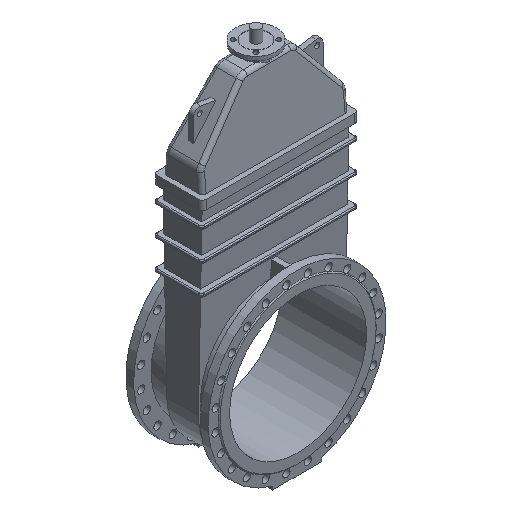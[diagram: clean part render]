
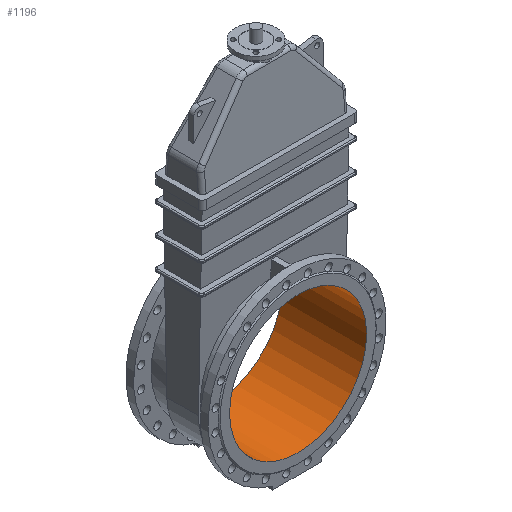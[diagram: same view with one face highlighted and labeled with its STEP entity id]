
A CAD part, isometric view. The second image highlights one B-rep face of the part: STEP entity #1196.
In plain terms, the highlighted cylindrical face has radius 350 mm (diameter 700 mm), a full revolution.
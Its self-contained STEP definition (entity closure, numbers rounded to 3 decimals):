
#1196=ADVANCED_FACE('',(#4028,#4030),#4032,.F.);
#4028=FACE_OUTER_BOUND('',#4029,.T.);
#4029=EDGE_LOOP('',(#7507));
#4030=FACE_OUTER_BOUND('',#4031,.T.);
#4031=EDGE_LOOP('',(#7508));
#4032=CYLINDRICAL_SURFACE('',#4033,350.);
#4033=AXIS2_PLACEMENT_3D('',#4034,#4035,#4036);
#4034=CARTESIAN_POINT('',(0.,215.,0.));
#4035=DIRECTION('',(0.,1.,0.));
#4036=DIRECTION('',(0.,0.,1.));
#7507=ORIENTED_EDGE('',*,*,#8510,.T.);
#7508=ORIENTED_EDGE('',*,*,#8509,.F.);
#8509=EDGE_CURVE('',#9537,#9537,#9538,.T.);
#8510=EDGE_CURVE('',#9539,#9539,#9540,.T.);
#9537=VERTEX_POINT('',#14941);
#9538=CIRCLE('',#14942,350.);
#9539=VERTEX_POINT('',#14946);
#9540=CIRCLE('',#14947,350.);
#14941=CARTESIAN_POINT('',(0.,-215.,350.));
#14942=AXIS2_PLACEMENT_3D('',#14943,#14944,#14945);
#14943=CARTESIAN_POINT('',(0.,-215.,0.));
#14944=DIRECTION('',(0.,1.,0.));
#14945=DIRECTION('',(0.,0.,1.));
#14946=CARTESIAN_POINT('',(0.,215.,350.));
#14947=AXIS2_PLACEMENT_3D('',#14948,#14949,#14950);
#14948=CARTESIAN_POINT('',(0.,215.,0.));
#14949=DIRECTION('',(0.,1.,0.));
#14950=DIRECTION('',(0.,0.,1.));
